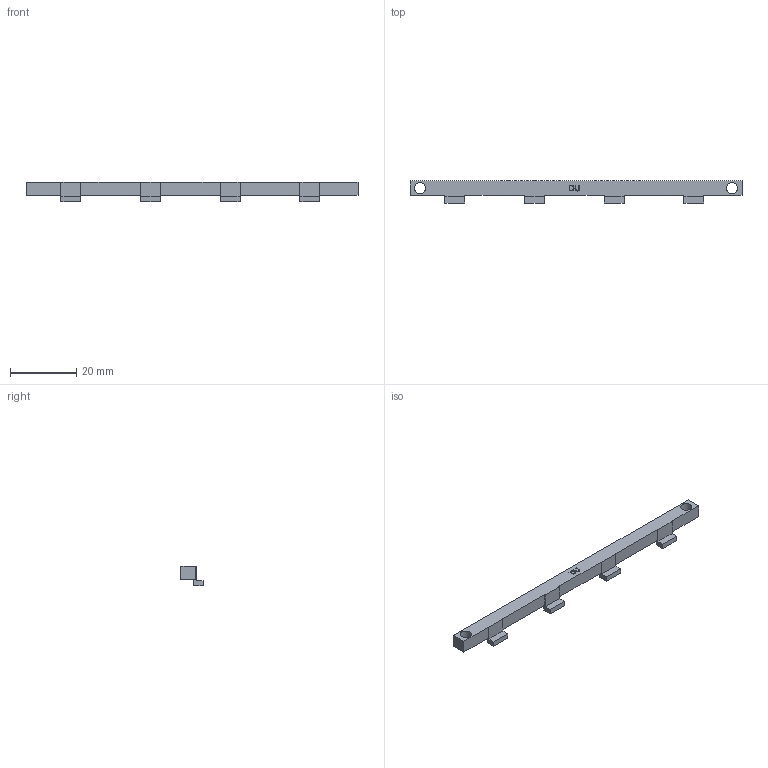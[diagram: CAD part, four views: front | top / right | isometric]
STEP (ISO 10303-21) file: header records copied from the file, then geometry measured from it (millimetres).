
FILE_DESCRIPTION(('Open CASCADE Model'),'2;1');
FILE_NAME('Open CASCADE Shape Model','2026-10-07T10:51:43',('Author'),( 'Open CASCADE'),'Open CASCADE STEP processor 7.8','Open CASCADE 7.8' ,'Unknown');
FILE_SCHEMA(('AUTOMOTIVE_DESIGN { 1 0 10303 214 1 1 1 1 }'));
Length unit declared in the file: millimetre
Products named in the file (1): Open CASCADE STEP translator 7.8 10
Bounding box: 100 x 6.7 x 5.95 mm (x, y, z)
Volume: 1818.7 mm3; surface area: 2023.6 mm2
Topology: 1 solids, 1 shells, 71 faces, 198 edges, 132 vertices
Faces by surface type: plane 53, extrusion 16, cylinder 2
Full cylindrical faces by diameter (mm): 3.4 x2
Entity records: 5173 total; most frequent: CARTESIAN_POINT 1415, DIRECTION 590, VECTOR 466, LINE 450, ORIENTED_EDGE 396, PCURVE 396, DEFINITIONAL_REPRESENTATION 396, EDGE_CURVE 198
